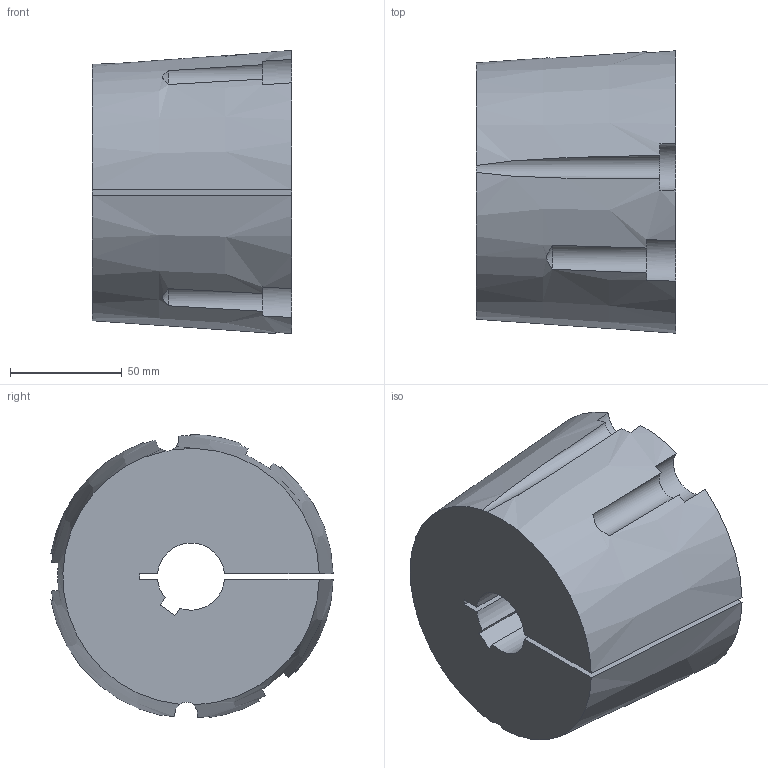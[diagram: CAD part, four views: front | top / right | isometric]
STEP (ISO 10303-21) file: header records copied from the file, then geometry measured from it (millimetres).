
FILE_DESCRIPTION( ( 'STEP AP203' ), '1' );
FILE_NAME( 'D:/export/antriebselemente/spannbuchsen_und_spannsaetze/taper-spannbuchsen_1008_bis_5050/taper-spannbuchsen_62251030Isometric_204.stp', '2018-12-11T11:11:25', ( '' ), ( '' ), ' ', 'PARTsolutions', ' ' );
FILE_SCHEMA( ( 'CONFIG_CONTROL_DESIGN' ) );
Length unit declared in the file: millimetre
Products named in the file (1): _taper-spannbuchsen_62251030
Bounding box: 89 x 126.13 x 126.46 mm (x, y, z)
Volume: 920291.1 mm3; surface area: 74933.9 mm2
Topology: 1 solids, 1 shells, 34 faces, 96 edges, 64 vertices
Faces by surface type: plane 15, cylinder 13, cone 6
Entity records: 1315 total; most frequent: CARTESIAN_POINT 391, ORIENTED_EDGE 192, DIRECTION 186, EDGE_CURVE 96, AXIS2_PLACEMENT_3D 80, VERTEX_POINT 64, CIRCLE 45, ADVANCED_FACE 34
